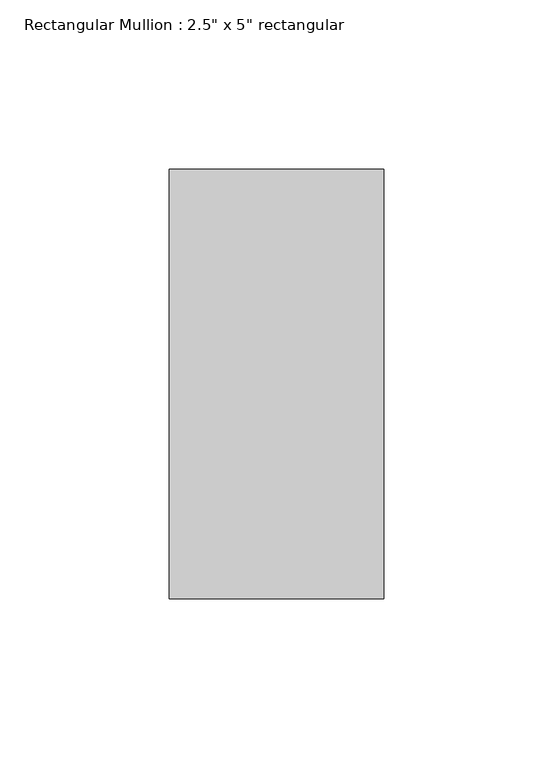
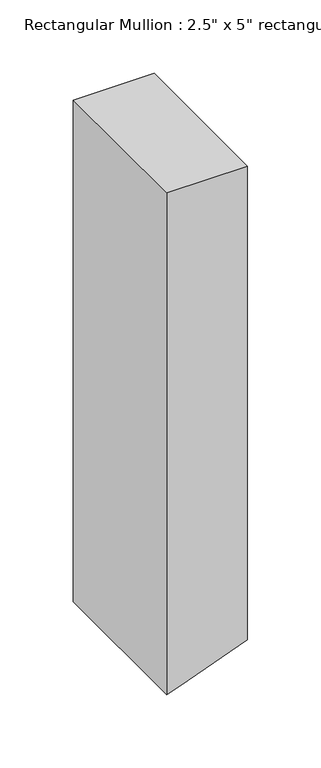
"""IFC4 building model written with IfcOpenShell, lengths in millimetres: member geometry."""

from ifc_helpers import new_model, si_unit, frame, origin, place, context, project, spatial, circle_curve, source, transform, mapped, element, save
from ifc_brep_helpers import plane_surface, cylinder_surface, advanced_brep


def member_cceb8e04(model_context):
    return source(origin(), model_context, "Body", "AdvancedBrep", [
        advanced_brep(
        [(31.75, 63.5, 0.0), (-31.75, 63.5, 0.0), (-31.75, -63.5, 0.0), (31.75, -63.5, 0.0), (31.75, 63.5, -393.7245172), (-21.1659471, 63.5, -413.3905389), (-31.75, 63.5, -417.0948038), (-31.75, -63.5, -417.0948038), (-21.1659471, -63.5, -413.3905389), (31.75, -63.5, -393.7245172)],
        [
            (0, 1),
            (1, 2),
            (2, 3),
            (3, 0),
            (0, 4),
            (4, 5, circle_curve(frame((-609.6, 63.5, 1250.95), z_axis=(0.0, 1.0, 0.0), x_axis=(0.7453559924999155, 0.0, -0.6666666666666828)), 1765.3)),
            (5, 6, circle_curve(frame((-609.6, 63.5, 1250.95), z_axis=(0.0, 1.0, 0.0), x_axis=(0.33333333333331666, 0.0, -0.9428090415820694)), 1765.3)),
            (6, 1),
            (6, 7),
            (7, 2),
            (7, 8, circle_curve(frame((-609.6, -63.5, 1250.95), z_axis=(0.0, -1.0, 0.0), x_axis=(0.33333333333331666, 0.0, -0.9428090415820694)), 1765.3)),
            (8, 9, circle_curve(frame((-609.6, -63.5, 1250.95), z_axis=(0.0, -1.0, 0.0), x_axis=(0.7453559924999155, 0.0, -0.6666666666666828)), 1765.3)),
            (9, 3),
            (9, 4),
            (8, 5),
        ],
        [
            plane_surface(frame((0.0, -70.9951583, 0.0), z_axis=(0.0, 0.0, 1.0), x_axis=(-1.0, 0.0, 0.0))),
            plane_surface(frame((31.75, 63.5, 0.0), z_axis=(0.0, 1.0, 0.0), x_axis=(0.0, 0.0, -1.0))),
            plane_surface(frame((-31.75, 63.5, 0.0), z_axis=(-1.0, 0.0, 0.0), x_axis=(0.0, 0.0, -1.0))),
            plane_surface(frame((-31.75, -63.5, 0.0), z_axis=(0.0, -1.0, 0.0), x_axis=(0.0, 0.0, -1.0))),
            plane_surface(frame((31.75, -63.5, 0.0), z_axis=(1.0, 0.0, 0.0), x_axis=(0.0, 0.0, -1.0))),
            cylinder_surface(frame((-609.6, 0.0, 1250.95), z_axis=(0.0, 1.0, 0.0), x_axis=(0.7453559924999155, 0.0, -0.6666666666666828)), 1765.3),
            cylinder_surface(frame((-609.6, 0.0, 1250.95), z_axis=(0.0, 1.0000000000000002, 0.0), x_axis=(0.33333333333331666, 0.0, -0.9428090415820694)), 1765.3),
        ],
        [
            (0, [[1, 2, 3, 4]]),
            (1, [[-1, 5, 6, 7, 8]]),
            (2, [[-2, -8, 9, 10]]),
            (3, [[-3, -10, 11, 12, 13]]),
            (4, [[-4, -13, 14, -5]]),
            (5, [[-14, -12, 15, -6]]),
            (6, [[-11, -9, -7, -15]]),
        ],
    ),
    ])


if __name__ == "__main__":
    model = new_model("IFC4")
    model_context = context("Model", 3, world=origin())
    ifc_project = project(units=[si_unit("LENGTHUNIT", "METRE", prefix="MILLI")], contexts=[model_context])
    site = spatial("IfcSite", under=ifc_project)
    building = spatial("IfcBuilding", under=site)
    placement = place(None, origin())
    member_shape = member_cceb8e04(model_context)
    element("IfcMember", 1, ObjectType="Rectangular Mullion : 2.5\" x 5\" rectangular", at=placement, inside=building, context=model_context, shape_type="MappedRepresentation", body=[
        mapped(member_shape, transform((0.0, 0.0, 0.0), x_axis=(1.0, 0.0, 0.0), y_axis=(0.0, 1.0, 0.0), z_axis=(0.0, 0.0, 1.0))),
    ])
    save(model, "model.ifc")
